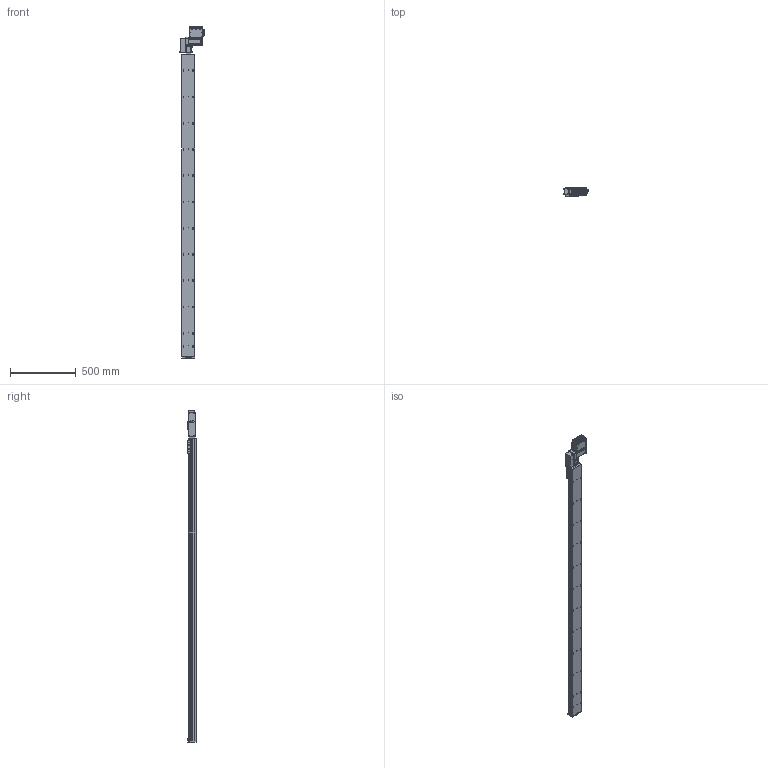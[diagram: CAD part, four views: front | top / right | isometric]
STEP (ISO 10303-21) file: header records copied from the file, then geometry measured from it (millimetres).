
FILE_DESCRIPTION (( 'STEP AP203' ), '1' );
FILE_NAME ('S10 TBN LH S2300.STEP', '2012-06-18T09:54:12', ( 'Conseil Régional Haute-Normandie' ), ( 'Conseil Régional Haute-Normandie' ), 'SwSTEP 2.0', 'SolidWorks 2010', '' );
FILE_SCHEMA (( 'CONFIG_CONTROL_DESIGN' ));
Length unit declared in the file: millimetre
Products named in the file (30): embout; S10 TBN LH S2300; Connecteur rond D12 4cts_5; T_X2_00F4_X0_le lat_X2_00E9_X0_rale_5; Vis TF 3 torkx_1_1; cache t皻e axe_Default; cache t皻e_Default; Cvis M5 L30_Default; palette tbn; plaque de bout s10_Default; Plaque racord_Default; renvoi LH_Default; vis M5 L12_Default; Vis M5 L16-2_Default_1; Moteur 60BLDC90A_3; vis M5 L5_Default; Assem1_7; BU41 Carte Alimentation P05_3; Colonnette_3; BU45 Carte d''axe A11_5; Couvercle_3; T_X2_00F4_X0_le fond_3; Connecteur rond D10 3cts_5; Sub D 9cts 90_X2_00B_X0__3; Radiateur profil_X2_00E9_X0_ 100x25_3; Colonnette ronde_3; T_X2_00F4_X0_le Arri_X2_00E8_X0_re_5; axe 2300_Default; axe 2300; T_X2_00F4_X0_le contre le moteur_5
Assembly tree (63 placements, depth 3):
  S10 TBN LH S2300
    renvoi LH_Default
    Cvis M5 L30_Default  x2
    cache t皻e axe_Default
    Vis M5 L16-2_Default_1  x4
    vis M5 L12_Default  x4
    vis M5 L5_Default  x4
    plaque de bout s10_Default
    embout
    Assem1_7
      Vis TF 3 torkx_1_1  x21
      Colonnette ronde_3
      Connecteur rond D10 3cts_5  x2
      T_X2_00F4_X0_le lat_X2_00E9_X0_rale_5  x2
      Colonnette_3  x2
      BU45 Carte d''axe A11_5
      Couvercle_3
      Moteur 60BLDC90A_3
      T_X2_00F4_X0_le fond_3
      Radiateur profil_X2_00E9_X0_ 100x25_3
      BU41 Carte Alimentation P05_3
      Connecteur rond D12 4cts_5
      Sub D 9cts 90_X2_00B_X0__3
      T_X2_00F4_X0_le Arri_X2_00E8_X0_re_5
      T_X2_00F4_X0_le contre le moteur_5
    cache t皻e_Default  x2
    axe 2300_Default
      axe 2300
    palette tbn
    Plaque racord_Default
Bounding box: 189.8 x 66.75 x 2528.49 mm (x, y, z)
Volume: 12758610 mm3; surface area: 1391818.4 mm2
Topology: 61 solids, 61 shells, 2373 faces, 5874 edges, 3787 vertices
Faces by surface type: plane 1114, cylinder 1034, cone 182, bspline 40, torus 3
Entity records: 49972 total; most frequent: CARTESIAN_POINT 8966, DIRECTION 8113, ORIENTED_EDGE 7328, EDGE_CURVE 3664, AXIS2_PLACEMENT_3D 3033, VERTEX_POINT 2391, LINE 2047, VECTOR 2047
